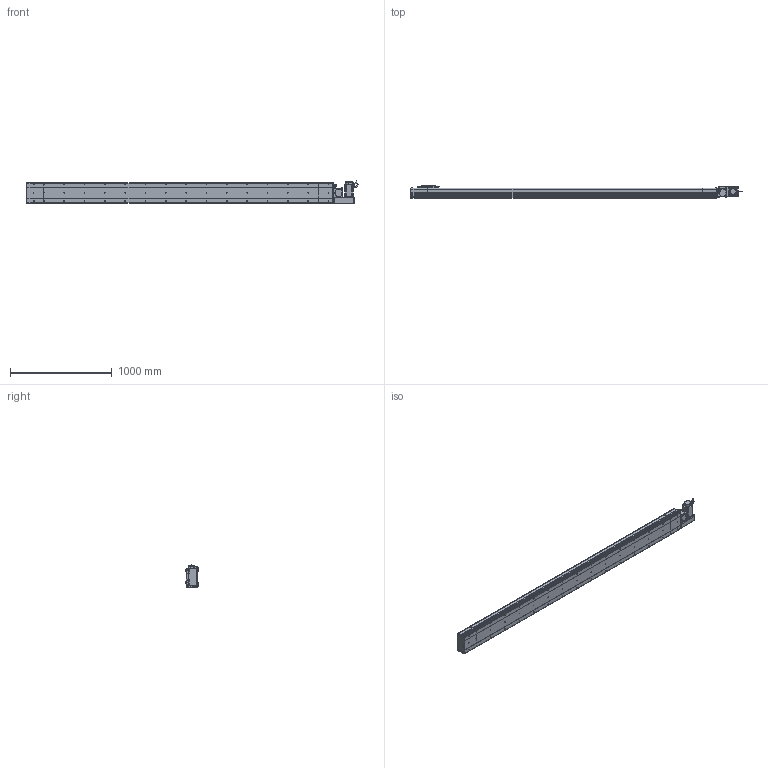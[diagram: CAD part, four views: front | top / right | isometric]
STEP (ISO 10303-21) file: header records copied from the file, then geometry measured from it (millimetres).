
FILE_DESCRIPTION (( 'STEP AP214' ), '1' );
FILE_NAME ('D20 CBH RH S2700.STEP', '2010-06-30T10:25:23', ( 'Conseil Régional Haute-Normandie' ), ( 'Conseil Régional Haute-Normandie' ), 'SwSTEP 2.0', 'SolidWorks 2010', '' );
FILE_SCHEMA (( 'AUTOMOTIVE_DESIGN' ));
Length unit declared in the file: millimetre
Products named in the file (31): vis M5 L15_Default; Couvercle RH_Default; Moteur motionking 90BLDC125A-640; Plaque De Serrage D20_Default; Support moteur RH_Default; Plaque de Bout Head D20 RH_Default; D20 CBH RH S2700; Head D20 RH_Default; Corp Tail D20 RH_Default; avant 90BLDC125A-640; Plaque De Serrage D20 RH_Default; Couvercle_Default; Corp Tail D20+100_Default; corps 90BLDC125A-640; Couvercle S2700_Default; Tail D20+100_Default; Corp S2700_Default; Corp D20 S2700_Default; Glissiere_Default; vis M5 L47_Default; Cache Support Moteur RH_Default; vis M5 L30_Default; ecrou_Default; Chariot D20_Default; Support Chariot D20_Default; Conecteur_Default; Conecteur2_Default; codeur 90BLDC125-640; Plaque de Bout Tail D20_Default; Rondelle Cache D20 RH_Default
Assembly tree (68 placements, depth 4):
  D20 CBH RH S2700
    Tail D20+100_Default
      vis M5 L15_Default  x6
      Plaque de Bout Tail D20_Default
      Plaque De Serrage D20_Default
      Corp Tail D20+100_Default
      Couvercle_Default
    Chariot D20_Default
      vis M5 L15_Default  x8
      Chariot D20_Default
      Support Chariot D20_Default
      Glissiere_Default
    Head D20 RH_Default
      Support moteur RH_Default
      Cache Support Moteur RH_Default
      Corp Tail D20 RH_Default
      Plaque de Bout Head D20 RH_Default
      vis M5 L47_Default  x4
      vis M5 L15_Default  x14
      ecrou_Default  x4
      Rondelle Cache D20 RH_Default  x3
      vis M5 L30_Default  x4
      Plaque De Serrage D20 RH_Default
      Moteur motionking 90BLDC125A-640
        corps 90BLDC125A-640
        Conecteur2_Default
        codeur 90BLDC125-640
        Conecteur_Default
        avant 90BLDC125A-640
      Couvercle RH_Default
    Corp D20 S2700_Default
      Corp S2700_Default
      Couvercle S2700_Default
Bounding box: 3265.45 x 119.5 x 229.7 mm (x, y, z)
Volume: 21346094.3 mm3; surface area: 4121501.5 mm2
Topology: 105 solids, 105 shells, 3856 faces, 9588 edges, 6226 vertices
Faces by surface type: plane 2143, bspline 806, cylinder 736, torus 95, cone 72, sphere 4
Entity records: 160550 total; most frequent: CARTESIAN_POINT 82502, ORIENTED_EDGE 15444, DIRECTION 11830, EDGE_CURVE 7722, VERTEX_POINT 5110, VECTOR 4978, LINE 4978, AXIS2_PLACEMENT_3D 3426
